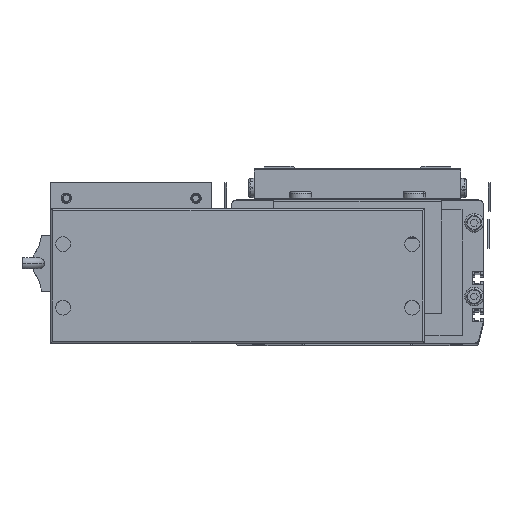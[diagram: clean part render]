
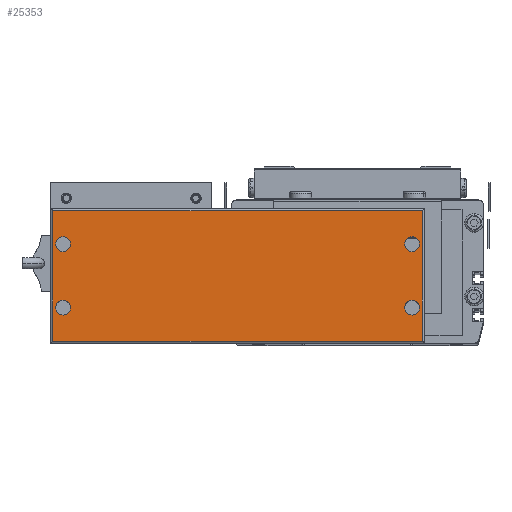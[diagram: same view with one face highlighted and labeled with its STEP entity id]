
A CAD part, top view. The second image highlights one B-rep face of the part: STEP entity #25353.
In plain terms, the highlighted planar face has unit normal (0, 0, 1).
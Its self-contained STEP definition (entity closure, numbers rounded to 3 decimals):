
#22495 = VERTEX_POINT ( 'NONE', #51282 ) ;
#22546 = EDGE_CURVE ( 'NONE', #22962, #22587, #51326, .T. ) ;
#22587 = VERTEX_POINT ( 'NONE', #51685 ) ;
#22633 = EDGE_CURVE ( 'NONE', #22756, #22755, #51640, .T. ) ;
#22702 = VERTEX_POINT ( 'NONE', #51698 ) ;
#22748 = EDGE_CURVE ( 'NONE', #22702, #22495, #51910, .T. ) ;
#22755 = VERTEX_POINT ( 'NONE', #51898 ) ;
#22756 = VERTEX_POINT ( 'NONE', #51923 ) ;
#22850 = VERTEX_POINT ( 'NONE', #52352 ) ;
#22855 = EDGE_CURVE ( 'NONE', #22850, #22989, #52318, .T. ) ;
#22962 = VERTEX_POINT ( 'NONE', #52779 ) ;
#22989 = VERTEX_POINT ( 'NONE', #52985 ) ;
#24867 = ORIENTED_EDGE ( 'NONE', *, *, #25316, .F. ) ;
#24869 = VERTEX_POINT ( 'NONE', #44908 ) ;
#24873 = ORIENTED_EDGE ( 'NONE', *, *, #25320, .F. ) ;
#24917 = ORIENTED_EDGE ( 'NONE', *, *, #24919, .F. ) ;
#24919 = EDGE_CURVE ( 'NONE', #22755, #22756, #44960, .T. ) ;
#24922 = EDGE_LOOP ( 'NONE', ( #24917, #25314 ) ) ;
#24927 = EDGE_LOOP ( 'NONE', ( #24873, #25346 ) ) ;
#25054 = ORIENTED_EDGE ( 'NONE', *, *, #25058, .T. ) ;
#25058 = EDGE_CURVE ( 'NONE', #25326, #24869, #45016, .T. ) ;
#25079 = EDGE_CURVE ( 'NONE', #25086, #25324, #44971, .T. ) ;
#25082 = EDGE_CURVE ( 'NONE', #24869, #25086, #44967, .T. ) ;
#25086 = VERTEX_POINT ( 'NONE', #44972 ) ;
#25090 = ORIENTED_EDGE ( 'NONE', *, *, #25079, .T. ) ;
#25289 = ORIENTED_EDGE ( 'NONE', *, *, #22748, .F. ) ;
#25295 = ORIENTED_EDGE ( 'NONE', *, *, #25354, .F. ) ;
#25302 = ORIENTED_EDGE ( 'NONE', *, *, #22855, .F. ) ;
#25308 = EDGE_LOOP ( 'NONE', ( #24867, #25302 ) ) ;
#25314 = ORIENTED_EDGE ( 'NONE', *, *, #22633, .F. ) ;
#25316 = EDGE_CURVE ( 'NONE', #22989, #22850, #45251, .T. ) ;
#25318 = EDGE_CURVE ( 'NONE', #25324, #25326, #45263, .T. ) ;
#25320 = EDGE_CURVE ( 'NONE', #22587, #22962, #45257, .T. ) ;
#25324 = VERTEX_POINT ( 'NONE', #45256 ) ;
#25326 = VERTEX_POINT ( 'NONE', #45244 ) ;
#25328 = ORIENTED_EDGE ( 'NONE', *, *, #25082, .T. ) ;
#25338 = EDGE_LOOP ( 'NONE', ( #25295, #25289 ) ) ;
#25346 = ORIENTED_EDGE ( 'NONE', *, *, #22546, .F. ) ;
#25353 = ADVANCED_FACE ( 'NONE', ( #45340, #45403, #45391, #45389, #45390 ), #45362, .T. ) ;
#25354 = EDGE_CURVE ( 'NONE', #22495, #22702, #45386, .T. ) ;
#25594 = EDGE_LOOP ( 'NONE', ( #25680, #25054, #25328, #25090 ) ) ;
#25680 = ORIENTED_EDGE ( 'NONE', *, *, #25318, .T. ) ;
#44908 = CARTESIAN_POINT ( 'NONE',  ( 34.75, 71., 44. ) ) ;
#44960 = CIRCLE ( 'NONE', #45102, 4. ) ;
#44966 = CARTESIAN_POINT ( 'NONE',  ( -164.25, 71., 44. ) ) ;
#44967 = LINE ( 'NONE', #44966, #45059 ) ;
#44968 = DIRECTION ( 'NONE',  ( 0., -1., 0. ) ) ;
#44969 = VECTOR ( 'NONE', #44968, 1000. ) ;
#44970 = CARTESIAN_POINT ( 'NONE',  ( -163.25, 0., 44. ) ) ;
#44971 = LINE ( 'NONE', #44970, #44969 ) ;
#44972 = CARTESIAN_POINT ( 'NONE',  ( -163.25, 71., 44. ) ) ;
#45016 = LINE ( 'NONE', #45109, #45108 ) ;
#45058 = DIRECTION ( 'NONE',  ( -1., 0., 0. ) ) ;
#45059 = VECTOR ( 'NONE', #45058, 1000. ) ;
#45067 = DIRECTION ( 'NONE',  ( 1., 0., 0. ) ) ;
#45096 = CARTESIAN_POINT ( 'NONE',  ( 29.25, 19., 44. ) ) ;
#45101 = DIRECTION ( 'NONE',  ( 0., 0., 1. ) ) ;
#45102 = AXIS2_PLACEMENT_3D ( 'NONE', #45096, #45101, #45067 ) ;
#45107 = DIRECTION ( 'NONE',  ( 0., 1., 0. ) ) ;
#45108 = VECTOR ( 'NONE', #45107, 1000. ) ;
#45109 = CARTESIAN_POINT ( 'NONE',  ( 34.75, 72., 44. ) ) ;
#45151 = DIRECTION ( 'NONE',  ( 0., 0., 1. ) ) ;
#45236 = DIRECTION ( 'NONE',  ( 1., 0., 0. ) ) ;
#45237 = DIRECTION ( 'NONE',  ( 0., 0., 1. ) ) ;
#45238 = CARTESIAN_POINT ( 'NONE',  ( -157.75, 53., 44. ) ) ;
#45244 = CARTESIAN_POINT ( 'NONE',  ( 34.75, 1., 44. ) ) ;
#45246 = DIRECTION ( 'NONE',  ( 1., 0., 0. ) ) ;
#45247 = VECTOR ( 'NONE', #45246, 1000. ) ;
#45249 = DIRECTION ( 'NONE',  ( 1., 0., 0. ) ) ;
#45250 = AXIS2_PLACEMENT_3D ( 'NONE', #45261, #45151, #45249 ) ;
#45251 = CIRCLE ( 'NONE', #45250, 4. ) ;
#45256 = CARTESIAN_POINT ( 'NONE',  ( -163.25, 1., 44. ) ) ;
#45257 = CIRCLE ( 'NONE', #45267, 4. ) ;
#45261 = CARTESIAN_POINT ( 'NONE',  ( 29.25, 53., 44. ) ) ;
#45262 = CARTESIAN_POINT ( 'NONE',  ( 35.75, 1., 44. ) ) ;
#45263 = LINE ( 'NONE', #45262, #45247 ) ;
#45267 = AXIS2_PLACEMENT_3D ( 'NONE', #45238, #45237, #45236 ) ;
#45340 = FACE_BOUND ( 'NONE', #24927, .T. ) ;
#45345 = DIRECTION ( 'NONE',  ( 1., 0., 0. ) ) ;
#45346 = DIRECTION ( 'NONE',  ( 0., 0., 1. ) ) ;
#45362 = PLANE ( 'NONE',  #45408 ) ;
#45382 = DIRECTION ( 'NONE',  ( 1., 0., 0. ) ) ;
#45383 = DIRECTION ( 'NONE',  ( 0., 0., 1. ) ) ;
#45384 = CARTESIAN_POINT ( 'NONE',  ( -157.75, 19., 44. ) ) ;
#45385 = AXIS2_PLACEMENT_3D ( 'NONE', #45384, #45383, #45382 ) ;
#45386 = CIRCLE ( 'NONE', #45385, 4. ) ;
#45389 = FACE_BOUND ( 'NONE', #25308, .T. ) ;
#45390 = FACE_OUTER_BOUND ( 'NONE', #25594, .T. ) ;
#45391 = FACE_BOUND ( 'NONE', #24922, .T. ) ;
#45403 = FACE_BOUND ( 'NONE', #25338, .T. ) ;
#45405 = CARTESIAN_POINT ( 'NONE',  ( -164.25, 0., 44. ) ) ;
#45408 = AXIS2_PLACEMENT_3D ( 'NONE', #45405, #45346, #45345 ) ;
#51282 = CARTESIAN_POINT ( 'NONE',  ( -153.75, 19., 44. ) ) ;
#51319 = AXIS2_PLACEMENT_3D ( 'NONE', #51423, #51422, #51421 ) ;
#51326 = CIRCLE ( 'NONE', #51319, 4. ) ;
#51421 = DIRECTION ( 'NONE',  ( 1., 0., 0. ) ) ;
#51422 = DIRECTION ( 'NONE',  ( 0., 0., 1. ) ) ;
#51423 = CARTESIAN_POINT ( 'NONE',  ( -157.75, 53., 44. ) ) ;
#51579 = DIRECTION ( 'NONE',  ( 1., 0., 0. ) ) ;
#51580 = DIRECTION ( 'NONE',  ( 0., 0., 1. ) ) ;
#51628 = AXIS2_PLACEMENT_3D ( 'NONE', #51638, #51580, #51579 ) ;
#51638 = CARTESIAN_POINT ( 'NONE',  ( 29.25, 19., 44. ) ) ;
#51640 = CIRCLE ( 'NONE', #51628, 4. ) ;
#51685 = CARTESIAN_POINT ( 'NONE',  ( -153.75, 53., 44. ) ) ;
#51698 = CARTESIAN_POINT ( 'NONE',  ( -161.75, 19., 44. ) ) ;
#51898 = CARTESIAN_POINT ( 'NONE',  ( 33.25, 19., 44. ) ) ;
#51910 = CIRCLE ( 'NONE', #51941, 4. ) ;
#51923 = CARTESIAN_POINT ( 'NONE',  ( 25.25, 19., 44. ) ) ;
#51924 = DIRECTION ( 'NONE',  ( 1., 0., 0. ) ) ;
#51941 = AXIS2_PLACEMENT_3D ( 'NONE', #51947, #51944, #51924 ) ;
#51944 = DIRECTION ( 'NONE',  ( 0., 0., 1. ) ) ;
#51947 = CARTESIAN_POINT ( 'NONE',  ( -157.75, 19., 44. ) ) ;
#52318 = CIRCLE ( 'NONE', #52354, 4. ) ;
#52352 = CARTESIAN_POINT ( 'NONE',  ( 25.25, 53., 44. ) ) ;
#52354 = AXIS2_PLACEMENT_3D ( 'NONE', #52428, #52427, #52426 ) ;
#52426 = DIRECTION ( 'NONE',  ( 1., 0., 0. ) ) ;
#52427 = DIRECTION ( 'NONE',  ( 0., 0., 1. ) ) ;
#52428 = CARTESIAN_POINT ( 'NONE',  ( 29.25, 53., 44. ) ) ;
#52779 = CARTESIAN_POINT ( 'NONE',  ( -161.75, 53., 44. ) ) ;
#52985 = CARTESIAN_POINT ( 'NONE',  ( 33.25, 53., 44. ) ) ;
